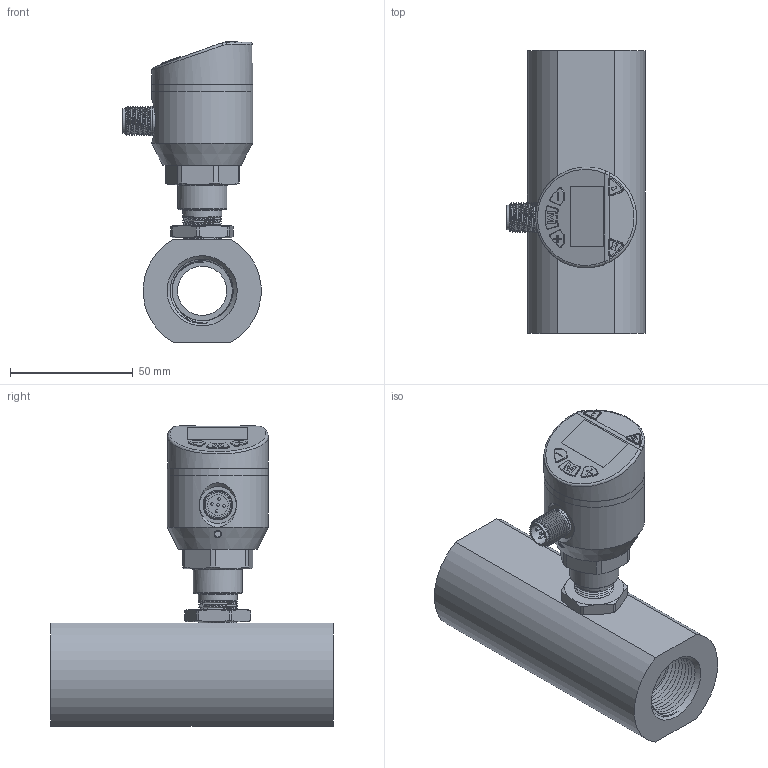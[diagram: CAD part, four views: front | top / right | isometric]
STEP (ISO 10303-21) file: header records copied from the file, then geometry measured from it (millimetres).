
FILE_DESCRIPTION( (''), '2;1');
FILE_NAME( 'QTKA_DN20_female-thread.step', '2024-01-11T15:05:38+08:00', (''), (''), '', '', '');
FILE_SCHEMA (('AUTOMOTIVE_DESIGN { 1 0 10303 214 3 1 1 1 }'));
Length unit declared in the file: millimetre
Products named in the file (1): QTKA DN20_female-thread
Bounding box: 56.12 x 115 x 122.3 mm (x, y, z)
Volume: 187308.6 mm3; surface area: 55804.3 mm2
Topology: 5 solids, 7 shells, 447 faces, 1082 edges, 685 vertices
Faces by surface type: plane 152, cylinder 139, bspline 60, cone 51, torus 39, sphere 6
Full cylindrical faces by diameter (mm): 1 x5, 2.7 x4, 8.4 x1, 9.7 x1, 9.8 x1, 10.1 x1, 11.6 x1, 12 x1, 15 x1, 15.9 x1, 20 x2, 23 x3, 24.5 x2, 26 x4, 26.1 x1, 37 x1, 41 x3
Entity records: 32016 total; most frequent: CARTESIAN_POINT 20924, ORIENTED_EDGE 1960, DIRECTION 1888, EDGE_CURVE 980, AXIS2_PLACEMENT_3D 751, VERTEX_POINT 641, EDGE_LOOP 543, ADVANCED_FACE 443
